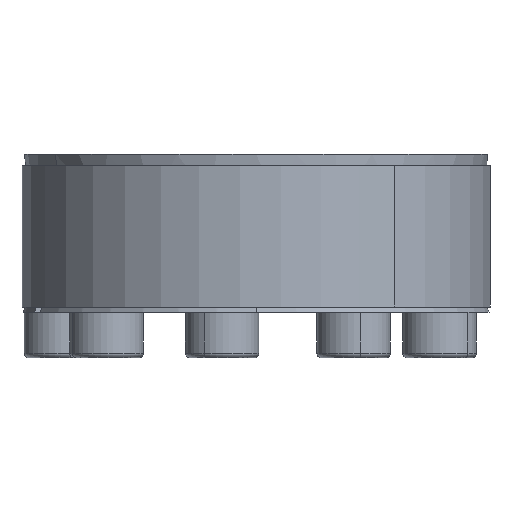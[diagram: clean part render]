
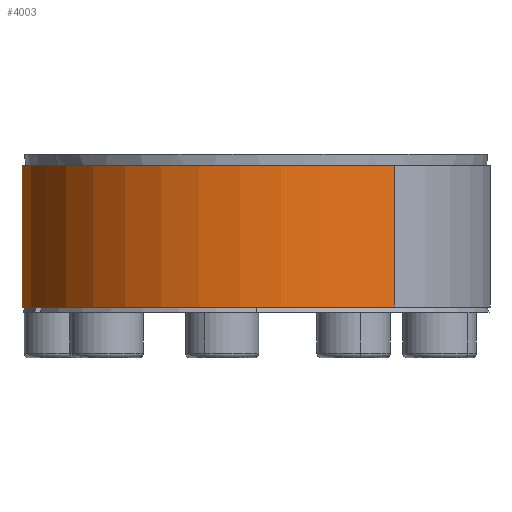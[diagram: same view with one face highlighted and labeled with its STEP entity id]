
A CAD part, left-side view. The second image highlights one B-rep face of the part: STEP entity #4003.
In plain terms, the highlighted cylindrical face has radius 41.485 mm (diameter 82.97 mm), a partial arc.
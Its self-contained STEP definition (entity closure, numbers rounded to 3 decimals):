
#28 = VERTEX_POINT ( 'NONE', #9862 ) ;
#51 = DIRECTION ( 'NONE',  ( -0.809, -0.588, 0. ) ) ;
#505 = LINE ( 'NONE', #6424, #3006 ) ;
#1082 = DIRECTION ( 'NONE',  ( 0., 0., -1. ) ) ;
#1205 = CIRCLE ( 'NONE', #13182, 41.485 ) ;
#1405 = VECTOR ( 'NONE', #3276, 1000. ) ;
#1876 = CARTESIAN_POINT ( 'NONE',  ( -33.562, -24.384, 25.969 ) ) ;
#2372 = ORIENTED_EDGE ( 'NONE', *, *, #8256, .T. ) ;
#2413 = CARTESIAN_POINT ( 'NONE',  ( 33.562, 24.384, 25.969 ) ) ;
#3006 = VECTOR ( 'NONE', #1082, 1000. ) ;
#3060 = CARTESIAN_POINT ( 'NONE',  ( 0., 0., 25.969 ) ) ;
#3276 = DIRECTION ( 'NONE',  ( 0., 0., -1. ) ) ;
#3308 = ORIENTED_EDGE ( 'NONE', *, *, #10935, .T. ) ;
#3587 = VERTEX_POINT ( 'NONE', #12185 ) ;
#3648 = AXIS2_PLACEMENT_3D ( 'NONE', #11455, #5072, #12527 ) ;
#4003 = ADVANCED_FACE ( 'NONE', ( #11493 ), #13006, .T. ) ;
#4264 = ORIENTED_EDGE ( 'NONE', *, *, #6373, .F. ) ;
#4874 = AXIS2_PLACEMENT_3D ( 'NONE', #3060, #12517, #8397 ) ;
#5072 = DIRECTION ( 'NONE',  ( 0., 0., 1. ) ) ;
#6373 = EDGE_CURVE ( 'NONE', #10421, #3587, #505, .T. ) ;
#6424 = CARTESIAN_POINT ( 'NONE',  ( -33.562, -24.384, 25.969 ) ) ;
#6442 = DIRECTION ( 'NONE',  ( 0., 0., 1. ) ) ;
#8256 = EDGE_CURVE ( 'NONE', #28, #3587, #1205, .T. ) ;
#8397 = DIRECTION ( 'NONE',  ( 0.809, 0.588, 0. ) ) ;
#8916 = VERTEX_POINT ( 'NONE', #2413 ) ;
#9862 = CARTESIAN_POINT ( 'NONE',  ( 33.562, 24.384, 0.969 ) ) ;
#9919 = LINE ( 'NONE', #12878, #1405 ) ;
#10421 = VERTEX_POINT ( 'NONE', #1876 ) ;
#10935 = EDGE_CURVE ( 'NONE', #8916, #28, #9919, .T. ) ;
#11455 = CARTESIAN_POINT ( 'NONE',  ( 0., 0., 25.969 ) ) ;
#11493 = FACE_OUTER_BOUND ( 'NONE', #13218, .T. ) ;
#12185 = CARTESIAN_POINT ( 'NONE',  ( -33.562, -24.384, 0.969 ) ) ;
#12247 = ORIENTED_EDGE ( 'NONE', *, *, #12913, .F. ) ;
#12517 = DIRECTION ( 'NONE',  ( 0., 0., -1. ) ) ;
#12527 = DIRECTION ( 'NONE',  ( -0.809, -0.588, 0. ) ) ;
#12656 = CIRCLE ( 'NONE', #3648, 41.485 ) ;
#12839 = CARTESIAN_POINT ( 'NONE',  ( 0., 0., 0.969 ) ) ;
#12878 = CARTESIAN_POINT ( 'NONE',  ( 33.562, 24.384, 25.969 ) ) ;
#12913 = EDGE_CURVE ( 'NONE', #8916, #10421, #12656, .T. ) ;
#13006 = CYLINDRICAL_SURFACE ( 'NONE', #4874, 41.485 ) ;
#13182 = AXIS2_PLACEMENT_3D ( 'NONE', #12839, #6442, #51 ) ;
#13218 = EDGE_LOOP ( 'NONE', ( #4264, #12247, #3308, #2372 ) ) ;
